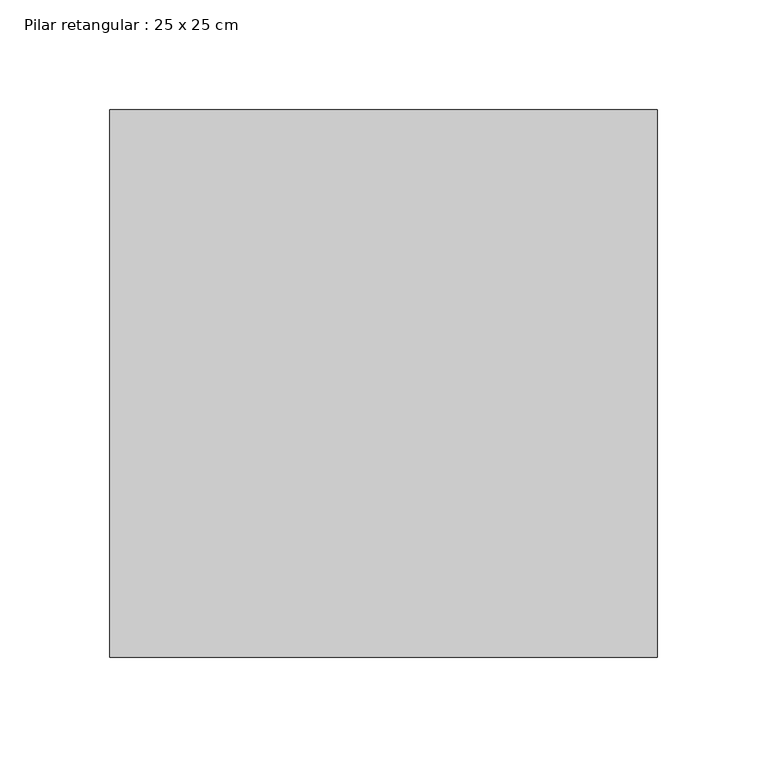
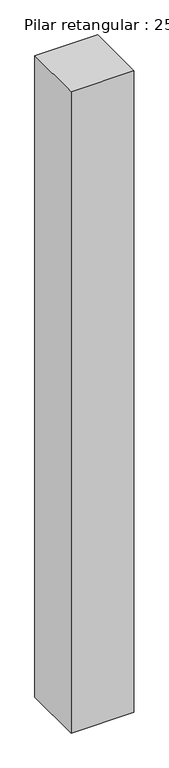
"""IFC4 building model written with IfcOpenShell, lengths in millimetres: column geometry, Pilar retangular : 25 x 25 cm."""

from ifc_helpers import new_model, si_unit, frame, origin, place, context, project, spatial, polyline, outline, extrude, source, transform, mapped, element, save


def pilar_retangular_25_x_25_cm_86619940(model_context):
    return source(origin(), model_context, "Body", "SweptSolid", [
        extrude(outline(polyline([(125.0, 125.0), (125.0, -125.0), (-125.0, -125.0), (-125.0, 125.0), (125.0, 125.0)])), frame((0.0, 0.0, 200.0), z_axis=(0.0, 0.0, 1.0), x_axis=(1.0, 0.0, 0.0)), (0.0, 0.0, 1.0), 2700.0),
    ])


if __name__ == "__main__":
    model = new_model("IFC4")
    model_context = context("Model", 3, world=origin())
    ifc_project = project(units=[si_unit("LENGTHUNIT", "METRE", prefix="MILLI")], contexts=[model_context])
    site = spatial("IfcSite", under=ifc_project)
    building = spatial("IfcBuilding", under=site)
    placement = place(None, origin())
    pilar_retangular_25_x_25_cm_shape = pilar_retangular_25_x_25_cm_86619940(model_context)
    element("IfcColumn", 1, ObjectType="Pilar retangular : 25 x 25 cm", at=placement, inside=building, context=model_context, shape_type="MappedRepresentation", body=[
        mapped(pilar_retangular_25_x_25_cm_shape, transform((0.0, 0.0, 0.0), x_axis=(1.0, 0.0, 0.0), y_axis=(0.0, 1.0, 0.0), z_axis=(0.0, 0.0, 1.0))),
    ])
    save(model, "model.ifc")
